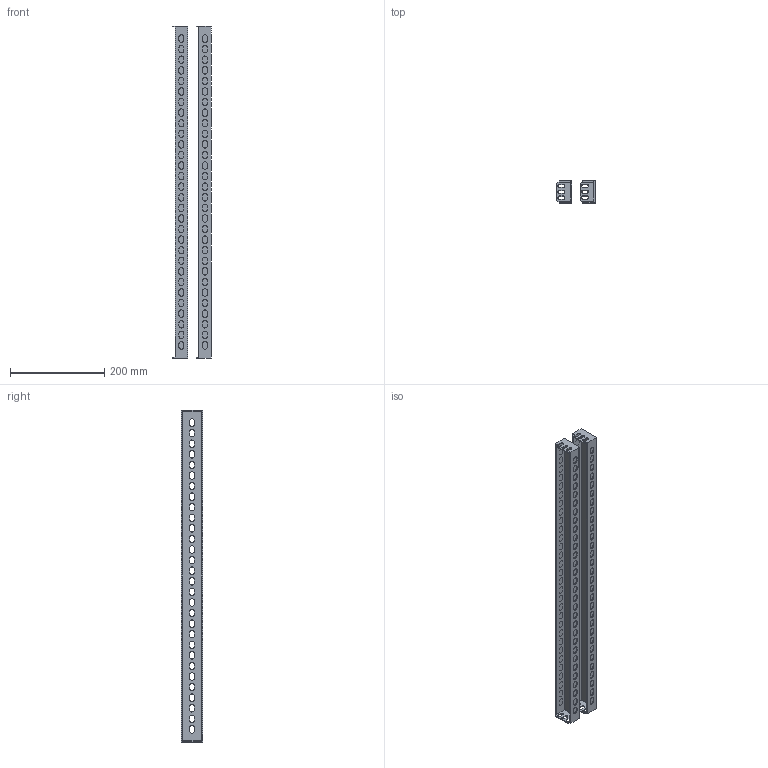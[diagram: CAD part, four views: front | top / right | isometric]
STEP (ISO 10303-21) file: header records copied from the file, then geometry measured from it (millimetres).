
FILE_DESCRIPTION (( 'STEP AP214' ), '1' );
FILE_NAME ('FO-00-RIZB-080 Ðåéêà èçîëÿòîðîâ òèï B 800ìì (2øò. êîìïë).STEP', '2025-08-14T07:28:56', ( '' ), ( '' ), 'SwSTEP 2.0', 'SolidWorks 2023', '' );
FILE_SCHEMA (( 'AUTOMOTIVE_DESIGN' ));
Length unit declared in the file: millimetre
Products named in the file (2): FO-00-RIZB-080 Рейка изоляторов тип B 800мм (2шт. компл); Рейка изоляторов тип B 800
Assembly tree (2 placements, depth 2):
  FO-00-RIZB-080 Рейка изоляторов тип B 800мм (2шт. компл)
    Рейка изоляторов тип B 800  x2
Bounding box: 82.15 x 46 x 706 mm (x, y, z)
Volume: 295719.3 mm3; surface area: 287985.2 mm2
Topology: 2 solids, 2 shells, 1016 faces, 2660 edges, 1768 vertices
Faces by surface type: plane 560, cylinder 456
Entity records: 15933 total; most frequent: DIRECTION 2812, CARTESIAN_POINT 2727, ORIENTED_EDGE 2660, EDGE_CURVE 1330, AXIS2_PLACEMENT_3D 969, VERTEX_POINT 884, VECTOR 874, LINE 874
